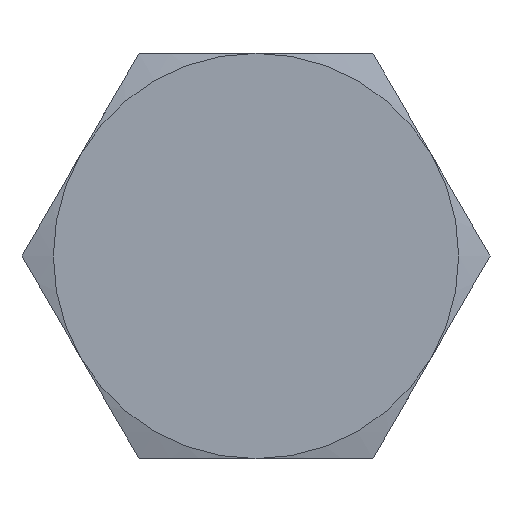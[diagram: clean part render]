
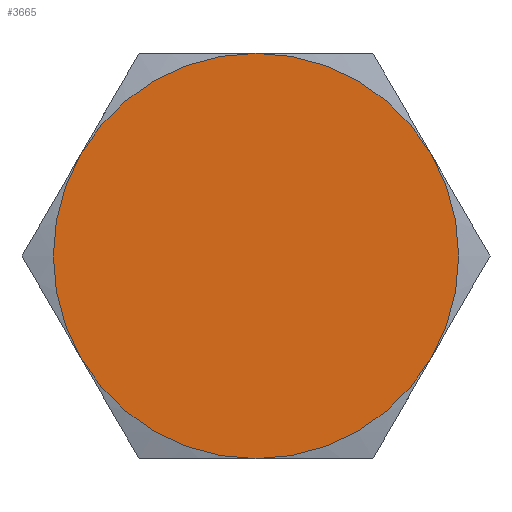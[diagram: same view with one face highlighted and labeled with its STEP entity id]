
A CAD part, left-side view. The second image highlights one B-rep face of the part: STEP entity #3665.
In plain terms, the highlighted planar face has unit normal (-1, 0, 0).
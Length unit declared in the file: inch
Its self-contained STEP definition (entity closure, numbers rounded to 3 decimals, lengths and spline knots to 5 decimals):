
#3275=CARTESIAN_POINT('',(-0.5,-0.70365,0.40625));
#3276=VERTEX_POINT('',#3275);
#3290=CARTESIAN_POINT('',(-0.5,0.0,0.8125));
#3291=VERTEX_POINT('',#3290);
#3305=CARTESIAN_POINT('',(-0.5,0.0,0.));
#3306=DIRECTION('',(-1.0,0.0,0.0));
#3307=DIRECTION('',(0.0,0.0,-1.0));
#3308=AXIS2_PLACEMENT_3D('',#3305,#3306,#3307);
#3309=CIRCLE('',#3308,0.8125);
#3310=EDGE_CURVE('',#3276,#3291,#3309,.T.);
#3322=CARTESIAN_POINT('',(-0.5,-0.70365,-0.40625));
#3323=VERTEX_POINT('',#3322);
#3350=CARTESIAN_POINT('',(-0.5,0.0,0.));
#3351=DIRECTION('',(-1.0,0.0,0.0));
#3352=DIRECTION('',(0.0,0.0,-1.0));
#3353=AXIS2_PLACEMENT_3D('',#3350,#3351,#3352);
#3354=CIRCLE('',#3353,0.8125);
#3355=EDGE_CURVE('',#3323,#3276,#3354,.T.);
#3367=CARTESIAN_POINT('',(-0.5,0.0,-0.8125));
#3368=VERTEX_POINT('',#3367);
#3395=CARTESIAN_POINT('',(-0.5,0.0,0.));
#3396=DIRECTION('',(-1.0,0.0,0.0));
#3397=DIRECTION('',(0.0,0.0,-1.0));
#3398=AXIS2_PLACEMENT_3D('',#3395,#3396,#3397);
#3399=CIRCLE('',#3398,0.8125);
#3400=EDGE_CURVE('',#3368,#3323,#3399,.T.);
#3425=CARTESIAN_POINT('',(-0.5,0.70365,-0.40625));
#3426=VERTEX_POINT('',#3425);
#3427=CARTESIAN_POINT('',(-0.5,0.0,0.));
#3428=DIRECTION('',(-1.0,0.0,0.0));
#3429=DIRECTION('',(0.0,0.0,-1.0));
#3430=AXIS2_PLACEMENT_3D('',#3427,#3428,#3429);
#3431=CIRCLE('',#3430,0.8125);
#3432=EDGE_CURVE('',#3426,#3368,#3431,.T.);
#3470=CARTESIAN_POINT('',(-0.5,0.70365,0.40625));
#3471=VERTEX_POINT('',#3470);
#3472=CARTESIAN_POINT('',(-0.5,0.0,0.));
#3473=DIRECTION('',(-1.0,0.0,0.0));
#3474=DIRECTION('',(0.0,0.0,-1.0));
#3475=AXIS2_PLACEMENT_3D('',#3472,#3473,#3474);
#3476=CIRCLE('',#3475,0.8125);
#3477=EDGE_CURVE('',#3471,#3426,#3476,.T.);
#3515=CARTESIAN_POINT('',(-0.5,0.0,0.));
#3516=DIRECTION('',(-1.0,0.0,0.0));
#3517=DIRECTION('',(0.0,0.0,-1.0));
#3518=AXIS2_PLACEMENT_3D('',#3515,#3516,#3517);
#3519=CIRCLE('',#3518,0.8125);
#3520=EDGE_CURVE('',#3291,#3471,#3519,.T.);
#3652=CARTESIAN_POINT('',(-0.5,0.0,0.));
#3653=DIRECTION('',(1.0,0.0,0.0));
#3654=DIRECTION('',(0.0,0.0,-1.0));
#3655=AXIS2_PLACEMENT_3D('',#3652,#3653,#3654);
#3656=PLANE('',#3655);
#3657=ORIENTED_EDGE('',*,*,#3520,.T.);
#3658=ORIENTED_EDGE('',*,*,#3477,.T.);
#3659=ORIENTED_EDGE('',*,*,#3432,.T.);
#3660=ORIENTED_EDGE('',*,*,#3400,.T.);
#3661=ORIENTED_EDGE('',*,*,#3355,.T.);
#3662=ORIENTED_EDGE('',*,*,#3310,.T.);
#3663=EDGE_LOOP('',(#3657,#3658,#3659,#3660,#3661,#3662));
#3664=FACE_OUTER_BOUND('',#3663,.T.);
#3665=ADVANCED_FACE('',(#3664),#3656,.F.);
